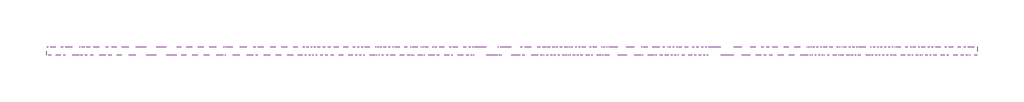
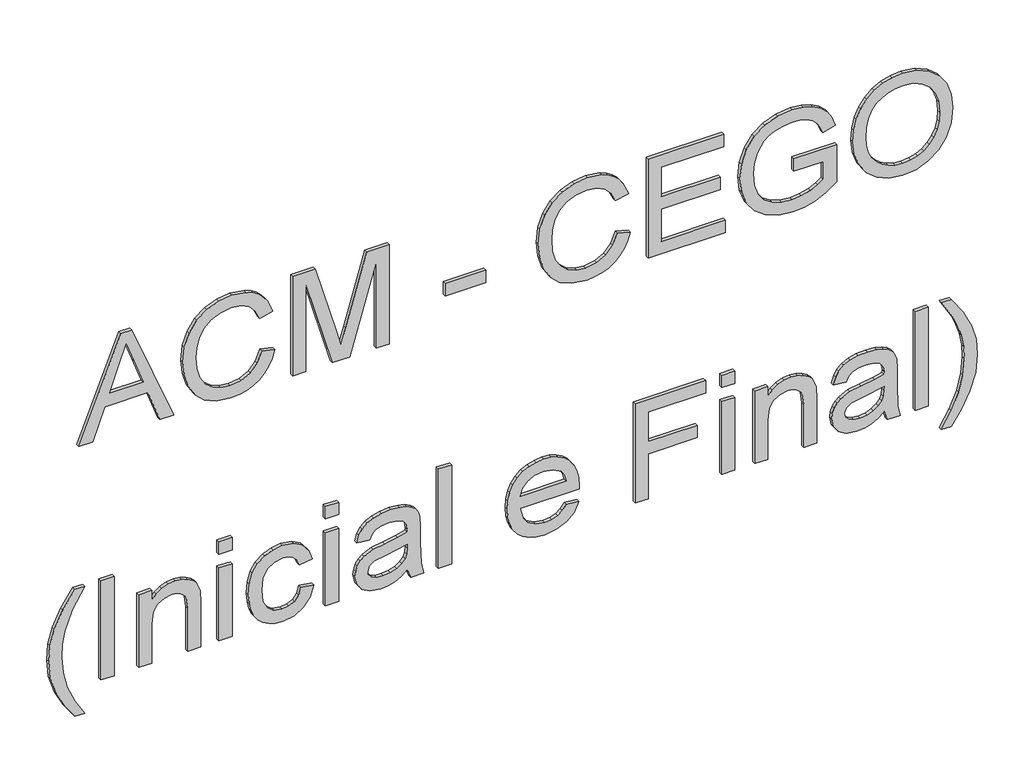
# One storey, part 4 of 12: 1 proxy.
"""IFC4 building model written with IfcOpenShell, lengths in millimetres."""

import ifcopenshell
import ifcopenshell.guid

model = None  # the IFC model being written
_history = None  # IfcOwnerHistory: only IFC2X3 demands one
_inside = {}  # id of a spatial element -> (the spatial element, [elements in it])
_under = {}  # id of a project, library or spatial element -> (it, [spatial elements below it])
_declared = {}  # id of a project -> (the project, [libraries it declares])
_typed = {}  # id of a type object -> (the type object, [elements of that type])
_made_of = {}  # id of a material, layer set ... -> (it, [elements and type objects made of it])


def new_model(schema):
    """Start an empty IFC model of exactly this schema.

    Asked for "IFC4X3", IfcOpenShell would pick the latest addendum, in which some entities
    have other attributes; the version numbers below select the first issue.
    IFC2X3 requires an IfcOwnerHistory on every rooted entity: one is made here for all.
    """
    global model, _history
    if schema == "IFC4X3":
        model = ifcopenshell.file(schema_version=(4, 3, 0, 0))
    else:
        model = ifcopenshell.file(schema=schema)
    _inside.clear()
    _under.clear()
    _declared.clear()
    _typed.clear()
    _made_of.clear()
    _history = None
    if model.schema == "IFC2X3":
        org = make("IfcOrganization", Name="unknown")
        user = make(
            "IfcPersonAndOrganization",
            ThePerson=make("IfcPerson", FamilyName="unknown"),
            TheOrganization=org,
        )
        app = make(
            "IfcApplication",
            ApplicationDeveloper=org,
            Version="unknown",
            ApplicationFullName="unknown",
            ApplicationIdentifier="unknown",
        )
        _history = make(
            "IfcOwnerHistory",
            OwningUser=user,
            OwningApplication=app,
            ChangeAction="ADDED",
            CreationDate=0,
        )
    return model


def make(cls, **values):
    """One entity of the class cls with the attributes given. An attribute that is None is left unset."""
    return model.create_entity(
        cls, **{name: value for name, value in values.items() if value is not None}
    )


def rooted(cls, **values):
    """An entity with a GlobalId (a new one), such as an element, a storey or a relation."""
    return make(cls, GlobalId=ifcopenshell.guid.new(), OwnerHistory=_history, **values)


def si_unit(unit_type, name, prefix=None):
    """IfcSIUnit, for example si_unit("LENGTHUNIT", "METRE", prefix="MILLI")."""
    return make("IfcSIUnit", UnitType=unit_type, Prefix=prefix, Name=name)


def assignment(units):
    """IfcUnitAssignment: the units of a project."""
    return None if units is None else make("IfcUnitAssignment", Units=units)


def point(xyz):
    """IfcCartesianPoint."""
    return None if xyz is None else make("IfcCartesianPoint", Coordinates=xyz)


def direction(xyz):
    """IfcDirection."""
    return None if xyz is None else make("IfcDirection", DirectionRatios=xyz)


def frame(location, z_axis=None, x_axis=None):
    """IfcAxis2Placement3D, a coordinate frame: its origin and axes. An axis left out is left unset."""
    return make(
        "IfcAxis2Placement3D",
        Location=point(location),
        Axis=direction(z_axis),
        RefDirection=direction(x_axis),
    )


def origin():
    """The frame at (0, 0, 0) with its axes left unset."""
    return frame((0.0, 0.0, 0.0))


def place(relative_to, where):
    """IfcLocalPlacement: puts the frame where relative to a parent placement (None: the world)."""
    return make(
        "IfcLocalPlacement", PlacementRelTo=relative_to, RelativePlacement=where
    )


def context(
    kind, dimensions, precision=None, world=None, true_north=None, identifier=None
):
    """IfcGeometricRepresentationContext, for example the 3D "Model" context."""
    return make(
        "IfcGeometricRepresentationContext",
        ContextIdentifier=identifier,
        ContextType=kind,
        CoordinateSpaceDimension=dimensions,
        Precision=precision,
        WorldCoordinateSystem=world,
        TrueNorth=true_north,
    )


def project(units=None, contexts=None):
    """IfcProject with its units and contexts."""
    return rooted(
        "IfcProject",
        Name="project",
        RepresentationContexts=contexts,
        UnitsInContext=assignment(units),
    )


def spatial(cls, under=None, at=None, **own):
    """A site, building, storey or space (cls), placed at a placement, below another one or the project."""
    s = rooted(cls, ObjectPlacement=at, **own)
    if under is not None:
        _under.setdefault(under.id(), (under, []))[1].append(s)
    return s


def polyline(points):
    """IfcPolyline through the points."""
    return make("IfcPolyline", Points=[point(p) for p in points])


def outline(outer, holes=None, kind="AREA"):
    """IfcArbitraryClosedProfileDef: a profile drawn as a closed curve; with holes, ...WithVoids."""
    if holes is None:
        return make("IfcArbitraryClosedProfileDef", ProfileType=kind, OuterCurve=outer)
    return make(
        "IfcArbitraryProfileDefWithVoids",
        ProfileType=kind,
        OuterCurve=outer,
        InnerCurves=holes,
    )


def extrude(swept, where, along, depth):
    """IfcExtrudedAreaSolid: the profile swept, set in the frame where, extruded along a direction by depth."""
    return make(
        "IfcExtrudedAreaSolid",
        SweptArea=swept,
        Position=where,
        ExtrudedDirection=direction(along),
        Depth=depth,
    )


def shape(context_of_items, identifier, shape_type, items):
    """IfcShapeRepresentation: the items that make up one representation, for example the "Body"."""
    return make(
        "IfcShapeRepresentation",
        ContextOfItems=context_of_items,
        RepresentationIdentifier=identifier,
        RepresentationType=shape_type,
        Items=items,
    )


def made_of(thing, what):
    """Note that an element or type object is made of a material, layer set ...; save() writes the relation."""
    if what is not None:
        _made_of.setdefault(what.id(), (what, []))[1].append(thing)
    return thing


def element(
    cls,
    number,
    at=None,
    inside=None,
    cuts=None,
    type_object=None,
    material=None,
    context=None,
    identifier="Body",
    shape_type=None,
    held_by="IfcProductDefinitionShape",
    body=None,
    shapes=None,
    **own,
):
    """One element of the class cls, such as IfcWall. Its Tag is "e" and its number.

    at: its placement. inside: the storey or other place that contains it. cuts: it is an
    opening in that element (IfcRelVoidsElement). A single representation is given by context,
    identifier, shape_type and body (its items); several are given by shapes. held_by: the class
    of the entity that holds the representations. save() writes the other relations.
    """
    e = rooted(cls, Tag="e%d" % number, ObjectPlacement=at, **own)
    if body is not None:
        shapes = [shape(context, identifier, shape_type, body)]
    if shapes is not None:
        e.Representation = make(held_by, Representations=shapes)
    if inside is not None:
        _inside.setdefault(inside.id(), (inside, []))[1].append(e)
    if cuts is not None:
        rooted(
            "IfcRelVoidsElement", RelatingBuildingElement=cuts, RelatedOpeningElement=e
        )
    if type_object is not None:
        _typed.setdefault(type_object.id(), (type_object, []))[1].append(e)
    return made_of(e, material)


def aggregate(whole, parts):
    """IfcRelAggregates: a whole, such as a stair, and the parts it consists of."""
    return rooted("IfcRelAggregates", RelatingObject=whole, RelatedObjects=parts)


def save(model, path):
    """Write the relations noted so far, then the file.

    IfcRelAggregates (storeys below a building ...), IfcRelContainedInSpatialStructure (elements
    in a storey), IfcRelDefinesByType, IfcRelAssociatesMaterial and IfcRelDeclares: one each for
    every whole, place, type object, material and project.
    """
    for whole, parts in _under.values():
        aggregate(whole, parts)
    for where, things in _inside.values():
        rooted(
            "IfcRelContainedInSpatialStructure",
            RelatedElements=things,
            RelatingStructure=where,
        )
    for kind, things in _typed.values():
        rooted("IfcRelDefinesByType", RelatedObjects=things, RelatingType=kind)
    for what, things in _made_of.values():
        rooted("IfcRelAssociatesMaterial", RelatedObjects=things, RelatingMaterial=what)
    for by, libraries in _declared.values():
        rooted("IfcRelDeclares", RelatingContext=by, RelatedDefinitions=libraries)
    model.write(path)


model = new_model("IFC4")

# Units and contexts
model_context = context("Model", 3, world=origin())
ifc_project = project(units=[si_unit("LENGTHUNIT", "METRE", prefix="MILLI")], contexts=[model_context])

# Site, building, storey
site = spatial("IfcSite", under=ifc_project)
building = spatial("IfcBuilding", under=site)
storey = spatial("IfcBuildingStorey", under=building, Name="02 - Marelli - Planta Baixa - Painéis Cego", Elevation=12000.0)

# Proxy
placement = place(None, origin())
element("IfcBuildingElementProxy", 1, Name="300mm Arial", ObjectType="300mm Arial", at=placement, inside=storey, context=model_context, shape_type="SweptSolid", body=[
    extrude(outline(polyline([(17965.9244535, 17627.3831765), (17965.9244535, 17667.1880084), (18060.1022443, 17701.6217631), (18060.1022443, 17825.7451483), (17965.9244535, 17860.2524794), (17965.9244535, 17900.0573113), (18267.293384, 17779.7598989), (18267.293384, 17747.6805889), (17965.9244535, 17627.3831765)]), holes=[polyline([(18097.7733606, 17715.4541261), (18178.3395176, 17744.9582621), (18229.6222677, 17763.7202439), (18171.8647944, 17784.8366704), (18097.7733606, 17811.9863617), (18097.7733606, 17715.4541261)])]), frame((0.0, 8778.3159498, 0.0), z_axis=(0.0, 1.0, 0.0), x_axis=(0.0, 0.0, 1.0)), (0.0, 0.0, 1.0), 10.0),
    extrude(outline(polyline([(18073.0516905, 18152.2036308), (18040.7884396, 18140.0175397), (18017.5750857, 18120.2346854), (18003.5587816, 18094.0322903), (17998.8866803, 18062.5875768), (18002.3171799, 18035.6126295), (18012.6086787, 18010.6058509), (18029.8347531, 17989.7469417), (18054.0689796, 17975.2156029), (18084.1617268, 17966.6899377), (18118.9633635, 17963.8480493), (18147.3822477, 17966.2484793), (18174.9550032, 17973.4497693), (18199.3455795, 17986.5739595), (18218.2179258, 18006.7430899), (18230.3028494, 18033.3225641), (18234.3311572, 18065.6777855), (18230.6983225, 18093.7471818), (18219.7998184, 18116.5926537), (18200.9550632, 18134.4349304), (18173.4834752, 18147.4947413), (18182.4597959, 18185.1658576), (18220.278065, 18168.5283943), (18235.6003501, 18156.7262801), (18248.5314022, 18142.6019107), (18258.7999084, 18126.4220007), (18266.1345557, 18108.4532645), (18272.0022735, 18067.1493135), (18267.4681279, 18029.2942562), (18253.8656912, 17994.7501369), (18231.526057, 17965.6230799), (18200.7803193, 17944.0192097), (18162.8332915, 17930.6375022), (18118.8897871, 17926.176933), (18077.2271512, 17930.1224674), (18038.3236302, 17941.9590706), (18005.2326447, 17961.3464517), (17981.0076153, 17987.94432), (17966.1635768, 18022.6447891), (17961.215564, 18066.3399731), (17962.8503396, 18088.7623807), (17967.7546665, 18109.3821666), (17975.9285445, 18128.1993306), (17987.3719739, 18145.2138729), (18001.9286046, 18160.0901011), (18019.4420868, 18172.4923228), (18039.9124206, 18182.4205382), (18063.3396059, 18189.8747471), (18073.0516905, 18152.2036308)])), frame((0.0, 8778.3159498, 0.0), z_axis=(0.0, 1.0, 0.0), x_axis=(0.0, 0.0, 1.0)), (0.0, 0.0, 1.0), 10.0),
    extrude(outline(polyline([(17965.9244535, 18241.672532), (17965.9244535, 18279.3436483), (18229.6222677, 18279.3436483), (17965.9244535, 18355.0537629), (17965.9244535, 18406.1157839), (18229.6222677, 18481.8258985), (17965.9244535, 18481.8258985), (17965.9244535, 18519.4970148), (18267.293384, 18519.4970148), (18267.293384, 18454.6762072), (18058.5571399, 18394.0492544), (18010.5117514, 18380.5847734), (18054.87832, 18368.150362), (18267.293384, 18306.4933396), (18267.293384, 18241.672532), (17965.9244535, 18241.672532)])), frame((0.0, 8778.3159498, 0.0), z_axis=(0.0, 1.0, 0.0), x_axis=(0.0, 0.0, 1.0)), (0.0, 0.0, 1.0), 10.0),
    extrude(outline(polyline([(18797.3214975, 8778.3159498), (18679.5992591, 8778.3159498), (18679.5992591, 8788.3159498), (18797.3214975, 8788.3159498), (18797.3214975, 8778.3159498)])), frame((0.0, 0.0, 18055.3933548), z_axis=(0.0, 0.0, 1.0), x_axis=(1.0, 0.0, 0.0)), (0.0, 0.0, 1.0), 37.6711163),
    extrude(outline(polyline([(18073.0516905, 19174.0326606), (18040.7884396, 19161.8465695), (18017.5750857, 19142.0637152), (18003.5587816, 19115.8613201), (17998.8866803, 19084.4166066), (18002.3171799, 19057.4416593), (18012.6086787, 19032.4348807), (18029.8347531, 19011.5759715), (18054.0689796, 18997.0446327), (18084.1617268, 18988.5189675), (18118.9633635, 18985.6770791), (18147.3822477, 18988.0775091), (18174.9550032, 18995.2787991), (18199.3455795, 19008.4029893), (18218.2179258, 19028.5721197), (18230.3028494, 19055.1515939), (18234.3311572, 19087.5068153), (18230.6983225, 19115.5762116), (18219.7998184, 19138.4216835), (18200.9550632, 19156.2639602), (18173.4834752, 19169.3237711), (18182.4597959, 19206.9948874), (18220.278065, 19190.3574241), (18235.6003501, 19178.5553099), (18248.5314022, 19164.4309405), (18258.7999084, 19148.2510305), (18266.1345557, 19130.2822943), (18272.0022735, 19088.9783433), (18267.4681279, 19051.123286), (18253.8656912, 19016.5791667), (18231.526057, 18987.4521097), (18200.7803193, 18965.8482395), (18162.8332915, 18952.466532), (18118.8897871, 18948.0059628), (18077.2271512, 18951.9514972), (18038.3236302, 18963.7881004), (18005.2326447, 18983.1754815), (17981.0076153, 19009.7733498), (17966.1635768, 19044.473819), (17961.215564, 19088.1690029), (17962.8503396, 19110.5914105), (17967.7546665, 19131.2111964), (17975.9285445, 19150.0283604), (17987.3719739, 19167.0429027), (18001.9286046, 19181.9191309), (18019.4420868, 19194.3213526), (18039.9124206, 19204.249568), (18063.3396059, 19211.7037769), (18073.0516905, 19174.0326606)])), frame((0.0, 8778.3159498, 0.0), z_axis=(0.0, 1.0, 0.0), x_axis=(0.0, 0.0, 1.0)), (0.0, 0.0, 1.0), 10.0),
    extrude(outline(polyline([(17965.9244535, 19263.5015618), (17965.9244535, 19484.8193701), (18003.5955698, 19484.8193701), (18003.5955698, 19301.1726781), (18102.4822501, 19301.1726781), (18102.4822501, 19470.6927015), (18140.1533665, 19470.6927015), (18140.1533665, 19301.1726781), (18229.6222677, 19301.1726781), (18229.6222677, 19480.1104806), (18267.293384, 19480.1104806), (18267.293384, 19263.5015618), (17965.9244535, 19263.5015618)])), frame((0.0, 8778.3159498, 0.0), z_axis=(0.0, 1.0, 0.0), x_axis=(0.0, 0.0, 1.0)), (0.0, 0.0, 1.0), 10.0),
    extrude(outline(polyline([(18083.646692, 19682.5927307), (18083.646692, 19767.3527424), (18029.2001567, 19767.3527424), (18018.55917, 19751.3038904), (18008.5619768, 19729.2033795), (18001.3055044, 19703.7551425), (17998.8866803, 19677.663112), (18002.0964507, 19648.1129907), (18011.7257619, 19620.2367326), (18027.967752, 19596.4163734), (18051.015559, 19579.0339491), (18080.6576508, 19568.4113565), (18116.6824952, 19564.8704923), (18147.4006418, 19567.8135482), (18175.83792, 19576.6427161), (18204.8638094, 19596.0300973), (18216.8015801, 19610.4694656), (18226.2009651, 19628.8451712), (18232.2986092, 19651.0744408), (18234.3311572, 19677.0745008), (18232.445762, 19699.2853763), (18226.7895763, 19719.4177185), (18217.9971966, 19736.303502), (18206.7032194, 19748.7747017), (18191.7212251, 19758.2016778), (18171.8647944, 19765.9547908), (18181.6504555, 19800.6828512), (18209.4899255, 19791.0903282), (18231.4984659, 19777.9109557), (18248.494614, 19760.0962701), (18261.2969075, 19736.5978076), (18269.325932, 19708.6939583), (18272.0022735, 19677.663112), (18267.3853545, 19635.3934708), (18253.5345974, 19598.3477538), (18230.1832877, 19567.9331099), (18197.0647111, 19545.5566875), (18157.581776, 19531.7887039), (18115.1373908, 19527.199376), (18072.9965082, 19531.807098), (18035.0126922, 19545.6302639), (18003.3472495, 19568.4941299), (17980.1614867, 19600.223952), (17965.9520447, 19638.4193002), (17961.215564, 19680.6797444), (17964.1954082, 19713.0257688), (17973.1349406, 19744.5808469), (17987.9789791, 19775.2714024), (18008.6723414, 19805.0238587), (18121.3178083, 19805.0238587), (18121.3178083, 19682.5927307), (18083.646692, 19682.5927307)])), frame((0.0, 8778.3159498, 0.0), z_axis=(0.0, 1.0, 0.0), x_axis=(0.0, 0.0, 1.0)), (0.0, 0.0, 1.0), 10.0),
    extrude(outline(polyline([(18112.6357932, 19852.1127541), (18074.0909572, 19856.4169735), (18037.6246544, 19869.3296315), (18005.9316205, 19890.5932108), (17981.7065911, 19919.950194), (17966.3383208, 19955.5979594), (17961.215564, 19995.733885), (17965.8508771, 20033.5429571), (17979.7568166, 20068.6848847), (18002.6758649, 20098.6488732), (18034.3505046, 20120.924128), (18072.8125672, 20134.747294), (18116.093884, 20139.3550159), (18158.8049836, 20134.9772202), (18196.7336173, 20121.843833), (18228.3530748, 20100.3595245), (18252.1366458, 20070.9289648), (18267.0358666, 20035.4835346), (18272.0022735, 19995.9546142), (18269.3581217, 19965.6641304), (18261.4256662, 19938.2891115), (18248.204907, 19913.8295573), (18229.6958441, 19892.285468), (18206.5146799, 19874.7099057), (18179.2776166, 19862.1559326), (18147.9846544, 19854.6235487), (18112.6357932, 19852.1127541)]), holes=[polyline([(18112.2679112, 19889.7838704), (18142.8044161, 19891.7474406), (18168.6366299, 19897.638151), (18189.7645528, 19907.4560018), (18206.1881846, 19921.2009928), (18218.5007351, 19937.6683106), (18227.2954141, 19955.6531417), (18232.5722214, 19975.1554859), (18234.3311572, 19996.1753434), (18230.6799284, 20025.3391886), (18219.726242, 20051.4680073), (18202.1322856, 20073.1270598), (18178.5602467, 20088.8816062), (18149.7366924, 20098.4833263), (18116.3881896, 20101.6838996), (18089.8501021, 20099.8145993), (18066.5217851, 20094.2066981), (18046.4032385, 20084.8601961), (18029.4944623, 20071.7750934), (18016.1035577, 20055.79292), (18006.5386258, 20037.7552059), (18000.7996667, 20017.6619512), (17998.8866803, 19995.5131558), (18000.7812726, 19973.736841), (18006.4650494, 19953.878111), (18015.9380108, 19935.936966), (18029.2001567, 19919.9134058), (18045.759445, 19906.7317341), (18065.1238335, 19897.3162543), (18087.2933223, 19891.6669664), (18112.2679112, 19889.7838704)])]), frame((0.0, 8778.3159498, 0.0), z_axis=(0.0, 1.0, 0.0), x_axis=(0.0, 0.0, 1.0)), (0.0, 0.0, 1.0), 10.0),
    extrude(outline(polyline([(17149.3155348, 17615.3902234), (17149.3155348, 17643.6435607), (17197.5540614, 17614.8016122), (17245.8109821, 17594.2002205), (17294.0862969, 17581.8393855), (17342.3800058, 17577.7191071), (17380.2534572, 17580.091946), (17417.9429677, 17587.2104626), (17475.7740173, 17608.4004655), (17535.4444769, 17643.6435607), (17535.4444769, 17615.3902234), (17484.934279, 17580.6989513), (17434.2033518, 17556.3819514), (17389.4137189, 17544.131481), (17342.600735, 17540.0479908), (17289.2210575, 17545.5110385), (17237.68079, 17561.9001813), (17190.2791949, 17586.1987871), (17149.3155348, 17615.3902234)])), frame((0.0, 8778.3159498, 0.0), z_axis=(0.0, 1.0, 0.0), x_axis=(0.0, 0.0, 1.0)), (0.0, 0.0, 1.0), 10.0),
    extrude(outline(polyline([(17728.4035724, 8778.3159498), (17690.732456, 8778.3159498), (17690.732456, 8788.3159498), (17728.4035724, 8788.3159498), (17728.4035724, 8778.3159498)])), frame((0.0, 0.0, 17234.0755465), z_axis=(0.0, 0.0, 1.0), x_axis=(1.0, 0.0, 0.0)), (0.0, 0.0, 1.0), 301.3689304),
    extrude(outline(polyline([(17234.0755465, 17799.0369154), (17234.0755465, 17836.7080317), (17351.5034793, 17836.7080317), (17386.2131456, 17841.003054), (17398.5877762, 17846.3718319), (17407.6422718, 17853.8881209), (17418.7339139, 17872.6960879), (17422.431128, 17894.7598106), (17420.7848561, 17908.6565529), (17415.8460403, 17920.6219148), (17408.1481095, 17929.9569205), (17398.2244927, 17935.962594), (17364.8943839, 17940.3036016), (17234.0755465, 17940.3036016), (17234.0755465, 17977.9747179), (17369.9711555, 17977.9747179), (17406.391473, 17975.9881551), (17434.0929872, 17964.6941779), (17444.6328064, 17954.5958171), (17452.9285454, 17940.4139662), (17458.3088196, 17923.4086209), (17460.1022443, 17904.8397772), (17457.8765582, 17883.8613065), (17451.1995, 17865.513192), (17440.0710697, 17849.7954337), (17424.4912672, 17836.7080317), (17455.3933548, 17836.7080317), (17455.3933548, 17799.0369154), (17234.0755465, 17799.0369154)])), frame((0.0, 8778.3159498, 0.0), z_axis=(0.0, 1.0, 0.0), x_axis=(0.0, 0.0, 1.0)), (0.0, 0.0, 1.0), 10.0),
    extrude(outline(polyline([(18067.4436191, 8778.3159498), (18029.7725028, 8778.3159498), (18029.7725028, 8788.3159498), (18067.4436191, 8788.3159498), (18067.4436191, 8778.3159498)])), frame((0.0, 0.0, 17497.7733606), z_axis=(0.0, 0.0, 1.0), x_axis=(1.0, 0.0, 0.0)), (0.0, 0.0, 1.0), 37.6711163),
    extrude(outline(polyline([(18067.4436191, 8778.3159498), (18029.7725028, 8778.3159498), (18029.7725028, 8788.3159498), (18067.4436191, 8788.3159498), (18067.4436191, 8778.3159498)])), frame((0.0, 0.0, 17234.0755465), z_axis=(0.0, 0.0, 1.0), x_axis=(1.0, 0.0, 0.0)), (0.0, 0.0, 1.0), 221.3178083),
    extrude(outline(polyline([(17314.1266686, 18265.2169797), (17293.2493654, 18258.7882419), (17278.5892679, 18247.1539738), (17269.9256469, 18231.160304), (17267.0377732, 18211.6533612), (17271.6638893, 18187.6214699), (17285.5422376, 18168.647956), (17309.6477053, 18156.3147121), (17344.9551798, 18152.2036308), (17379.7936048, 18156.4066826), (17403.816299, 18169.015838), (17417.7774208, 18188.3388398), (17422.431128, 18212.6834308), (17420.0674862, 18229.1737412), (17412.9765607, 18243.0336954), (17401.1951398, 18253.6746821), (17384.7600117, 18260.5080902), (17389.4689012, 18298.1792065), (17419.4512838, 18287.9244959), (17441.7081445, 18269.6683519), (17455.5037194, 18244.2201148), (17460.1022443, 18212.3891252), (17456.7545181, 18185.7452717), (17446.7113397, 18161.1431633), (17429.9635118, 18140.5785598), (17406.5018376, 18126.0472209), (17377.448357, 18117.4111911), (17343.9251102, 18114.5325145), (17317.8675687, 18116.2178739), (17295.024396, 18121.2739521), (17275.3955923, 18129.700749), (17258.9811575, 18141.4982647), (17246.0248135, 18156.0732895), (17236.7702821, 18172.8326137), (17231.2175632, 18191.7762372), (17229.3666569, 18212.90416), (17234.6733547, 18245.535293), (17250.593448, 18272.648196), (17275.9129264, 18292.3850651), (17309.4177791, 18302.888096), (17314.1266686, 18265.2169797)])), frame((0.0, 8778.3159498, 0.0), z_axis=(0.0, 1.0, 0.0), x_axis=(0.0, 0.0, 1.0)), (0.0, 0.0, 1.0), 10.0),
    extrude(outline(polyline([(18373.5214391, 8778.3159498), (18335.8503228, 8778.3159498), (18335.8503228, 8788.3159498), (18373.5214391, 8788.3159498), (18373.5214391, 8778.3159498)])), frame((0.0, 0.0, 17234.0755465), z_axis=(0.0, 0.0, 1.0), x_axis=(1.0, 0.0, 0.0)), (0.0, 0.0, 1.0), 221.3178083),
    extrude(outline(polyline([(18373.5214391, 8778.3159498), (18335.8503228, 8778.3159498), (18335.8503228, 8788.3159498), (18373.5214391, 8788.3159498), (18373.5214391, 8778.3159498)])), frame((0.0, 0.0, 17497.7733606), z_axis=(0.0, 0.0, 1.0), x_axis=(1.0, 0.0, 0.0)), (0.0, 0.0, 1.0), 37.6711163),
    extrude(outline(polyline([(17262.3288837, 18571.2947997), (17234.0755465, 18580.7125788), (17234.0755465, 18618.3836951), (17265.7501862, 18610.8789024), (17331.1963932, 18608.965916), (17378.0645594, 18608.965916), (17411.0267861, 18607.126506), (17425.1442577, 18602.5831634), (17436.5945848, 18595.5750114), (17445.856014, 18585.0076011), (17453.406792, 18569.7864835), (17458.4283812, 18549.598959), (17460.1022443, 18524.1323279), (17458.207652, 18497.5804449), (17452.5238752, 18474.4314704), (17443.3452194, 18455.5039417), (17430.9659903, 18441.6163964), (17414.7791825, 18431.8583265), (17394.1777908, 18425.319224), (17389.4689012, 18462.9903403), (17405.1314772, 18470.4767389), (17415.1838527, 18481.1637109), (17420.6193092, 18496.8354839), (17422.431128, 18519.2762856), (17419.7088012, 18543.5197091), (17411.5418209, 18560.9205274), (17400.5421493, 18568.7012316), (17383.7299421, 18571.2947997), (17375.3422326, 18571.0740705), (17368.3524747, 18544.2554731), (17362.3927864, 18505.7382282), (17356.7274037, 18473.1438834), (17344.3665686, 18446.7667443), (17334.8752131, 18436.1625458), (17322.7351073, 18427.8208216), (17308.5532564, 18422.4129563), (17292.9366657, 18420.6103345), (17267.6079903, 18425.3836034), (17247.2457219, 18439.70341), (17233.8364232, 18462.925961), (17229.3666569, 18494.4074627), (17231.224461, 18515.2755689), (17236.7978732, 18534.7641176), (17246.896234, 18553.2961731), (17262.3288837, 18571.2947997)]), holes=[polyline([(17337.6711163, 18571.2947997), (17327.0025384, 18571.0740705), (17310.0799667, 18569.5841484), (17297.8662844, 18565.1143822), (17286.0112871, 18555.0344155), (17276.0508821, 18540.5398649), (17269.2910505, 18522.6607999), (17267.0377732, 18502.4272902), (17269.0795183, 18483.3434117), (17275.2047535, 18469.5018516), (17284.3834093, 18461.086551), (17295.5854161, 18458.2814508), (17310.0799667, 18463.4317987), (17320.0127805, 18478.1102903), (17326.1196217, 18510.5206941), (17337.6711163, 18571.2947997)])]), frame((0.0, 8778.3159498, 0.0), z_axis=(0.0, 1.0, 0.0), x_axis=(0.0, 0.0, 1.0)), (0.0, 0.0, 1.0), 10.0),
    extrude(outline(polyline([(18698.4348172, 8778.3159498), (18660.7637009, 8778.3159498), (18660.7637009, 8788.3159498), (18698.4348172, 8788.3159498), (18698.4348172, 8778.3159498)])), frame((0.0, 0.0, 17234.0755465), z_axis=(0.0, 0.0, 1.0), x_axis=(1.0, 0.0, 0.0)), (0.0, 0.0, 1.0), 301.3689304),
    extrude(outline(polyline([(17300.0, 19027.6156265), (17285.1191733, 19017.0574133), (17274.9104479, 19003.3354148), (17269.0059419, 18986.4496313), (17267.0377732, 18966.4000625), (17271.2868103, 18939.7378149), (17284.0339214, 18917.8764274), (17304.7640718, 18902.7288862), (17332.9622268, 18896.2081778), (17332.9622268, 19065.507472), (17343.1157698, 19065.7282012), (17369.3687487, 19063.9416743), (17392.5039277, 19058.5820935), (17412.5213067, 19049.6494588), (17429.4208859, 19037.1437702), (17442.8439802, 19021.8237844), (17452.4319047, 19004.4482579), (17458.1846594, 18985.0171907), (17460.1022443, 18963.530583), (17458.1800609, 18941.3289046), (17452.4135106, 18921.2977299), (17442.8025935, 18903.437059), (17429.3473095, 18887.746892), (17412.4109422, 18874.9675911), (17392.3567749, 18865.8395191), (17369.1848077, 18860.3626759), (17342.8950406, 18858.5370615), (17317.467497, 18860.3442818), (17295.0427901, 18865.7659427), (17275.62092, 18874.8020442), (17259.2018867, 18887.4525864), (17246.1489737, 18903.1841402), (17236.8254644, 18921.4632768), (17231.2313588, 18942.2899963), (17229.3666569, 18965.6642985), (17233.6892704, 19001.3212609), (17246.6571107, 19030.0068595), (17267.4608375, 19051.2428477), (17295.2911105, 19064.5509788), (17300.0, 19027.6156265)]), holes=[polyline([(17370.6333431, 18896.2081778), (17391.8693312, 18902.3977924), (17408.3412476, 18916.9935106), (17418.9086579, 18937.9903754), (17422.431128, 18963.3834302), (17418.0165441, 18991.011368), (17404.7727922, 19012.9739231), (17390.535759, 19022.9619193), (17370.6333431, 19028.0570849), (17370.6333431, 18896.2081778)])]), frame((0.0, 8778.3159498, 0.0), z_axis=(0.0, 1.0, 0.0), x_axis=(0.0, 0.0, 1.0)), (0.0, 0.0, 1.0), 10.0),
    extrude(outline(polyline([(17234.0755465, 19225.8304455), (17234.0755465, 19263.5015618), (17370.6333431, 19263.5015618), (17370.6333431, 19404.768248), (17408.3044594, 19404.768248), (17408.3044594, 19263.5015618), (17497.7733606, 19263.5015618), (17497.7733606, 19428.3126957), (17535.4444769, 19428.3126957), (17535.4444769, 19225.8304455), (17234.0755465, 19225.8304455)])), frame((0.0, 8778.3159498, 0.0), z_axis=(0.0, 1.0, 0.0), x_axis=(0.0, 0.0, 1.0)), (0.0, 0.0, 1.0), 10.0),
    extrude(outline(polyline([(19513.0727074, 8778.3159498), (19475.4015911, 8778.3159498), (19475.4015911, 8788.3159498), (19513.0727074, 8788.3159498), (19513.0727074, 8778.3159498)])), frame((0.0, 0.0, 17497.7733606), z_axis=(0.0, 0.0, 1.0), x_axis=(1.0, 0.0, 0.0)), (0.0, 0.0, 1.0), 37.6711163),
    extrude(outline(polyline([(19513.0727074, 8778.3159498), (19475.4015911, 8778.3159498), (19475.4015911, 8788.3159498), (19513.0727074, 8788.3159498), (19513.0727074, 8778.3159498)])), frame((0.0, 0.0, 17234.0755465), z_axis=(0.0, 0.0, 1.0), x_axis=(1.0, 0.0, 0.0)), (0.0, 0.0, 1.0), 221.3178083),
    extrude(outline(polyline([(17234.0755465, 19569.5793818), (17234.0755465, 19607.2504981), (17351.5034793, 19607.2504981), (17386.2131456, 19611.5455204), (17398.5877762, 19616.9142983), (17407.6422718, 19624.4305873), (17418.7339139, 19643.2385543), (17422.431128, 19665.302277), (17420.7848561, 19679.1990193), (17415.8460403, 19691.1643812), (17408.1481095, 19700.4993868), (17398.2244927, 19706.5050604), (17364.8943839, 19710.846068), (17234.0755465, 19710.846068), (17234.0755465, 19748.5171843), (17369.9711555, 19748.5171843), (17406.391473, 19746.5306215), (17434.0929872, 19735.2366442), (17444.6328064, 19725.1382835), (17452.9285454, 19710.9564326), (17458.3088196, 19693.9510873), (17460.1022443, 19675.3822436), (17457.8765582, 19654.4037729), (17451.1995, 19636.0556583), (17440.0710697, 19620.3379001), (17424.4912672, 19607.2504981), (17455.3933548, 19607.2504981), (17455.3933548, 19569.5793818), (17234.0755465, 19569.5793818)])), frame((0.0, 8778.3159498, 0.0), z_axis=(0.0, 1.0, 0.0), x_axis=(0.0, 0.0, 1.0)), (0.0, 0.0, 1.0), 10.0),
    extrude(outline(polyline([(17262.3288837, 19941.5816553), (17234.0755465, 19950.9994344), (17234.0755465, 19988.6705507), (17265.7501862, 19981.165758), (17331.1963932, 19979.2527716), (17378.0645594, 19979.2527716), (17411.0267861, 19977.4133617), (17425.1442577, 19972.870019), (17436.5945848, 19965.861867), (17445.856014, 19955.2944567), (17453.406792, 19940.0733392), (17458.4283812, 19919.8858147), (17460.1022443, 19894.4191836), (17458.207652, 19867.8673006), (17452.5238752, 19844.718326), (17443.3452194, 19825.7907974), (17430.9659903, 19811.903252), (17414.7791825, 19802.1451821), (17394.1777908, 19795.6060797), (17389.4689012, 19833.277196), (17405.1314772, 19840.7635946), (17415.1838527, 19851.4505665), (17420.6193092, 19867.1223395), (17422.431128, 19889.5631412), (17419.7088012, 19913.8065647), (17411.5418209, 19931.2073831), (17400.5421493, 19938.9880873), (17383.7299421, 19941.5816553), (17375.3422326, 19941.3609261), (17368.3524747, 19914.5423287), (17362.3927864, 19876.0250838), (17356.7274037, 19843.430739), (17344.3665686, 19817.0536), (17334.8752131, 19806.4494015), (17322.7351073, 19798.1076772), (17308.5532564, 19792.6998119), (17292.9366657, 19790.8971901), (17267.6079903, 19795.670459), (17247.2457219, 19809.9902657), (17233.8364232, 19833.2128166), (17229.3666569, 19864.6943183), (17231.224461, 19885.5624245), (17236.7978732, 19905.0509732), (17246.896234, 19923.5830287), (17262.3288837, 19941.5816553)]), holes=[polyline([(17337.6711163, 19941.5816553), (17327.0025384, 19941.3609261), (17310.0799667, 19939.8710041), (17297.8662844, 19935.4012378), (17286.0112871, 19925.3212712), (17276.0508821, 19910.8267205), (17269.2910505, 19892.9476556), (17267.0377732, 19872.7141458), (17269.0795183, 19853.6302673), (17275.2047535, 19839.7887073), (17284.3834093, 19831.3734066), (17295.5854161, 19828.5683064), (17310.0799667, 19833.7186544), (17320.0127805, 19848.397146), (17326.1196217, 19880.8075497), (17337.6711163, 19941.5816553)])]), frame((0.0, 8778.3159498, 0.0), z_axis=(0.0, 1.0, 0.0), x_axis=(0.0, 0.0, 1.0)), (0.0, 0.0, 1.0), 10.0),
    extrude(outline(polyline([(20068.7216729, 8778.3159498), (20031.0505566, 8778.3159498), (20031.0505566, 8788.3159498), (20068.7216729, 8788.3159498), (20068.7216729, 8778.3159498)])), frame((0.0, 0.0, 17234.0755465), z_axis=(0.0, 0.0, 1.0), x_axis=(1.0, 0.0, 0.0)), (0.0, 0.0, 1.0), 301.3689304),
    extrude(outline(polyline([(17149.3155348, 20134.6461264), (17190.2791949, 20163.699607), (17237.68079, 20188.0258039), (17289.2210575, 20204.4977202), (17342.600735, 20209.988359), (17389.4137189, 20205.9048689), (17434.2033518, 20193.6543984), (17484.934279, 20169.3373986), (17535.4444769, 20134.6461264), (17535.4444769, 20106.3927892), (17475.1854061, 20141.8566135), (17446.8400984, 20153.8311725), (17417.2807801, 20162.8258872), (17379.9775458, 20169.9444038), (17342.3800058, 20172.3172427), (17294.0862969, 20168.1969644), (17245.8109821, 20155.8361293), (17197.5540614, 20135.2347376), (17149.3155348, 20106.3927892), (17149.3155348, 20134.6461264)])), frame((0.0, 8778.3159498, 0.0), z_axis=(0.0, 1.0, 0.0), x_axis=(0.0, 0.0, 1.0)), (0.0, 0.0, 1.0), 10.0),
])

save(model, "model.ifc")
